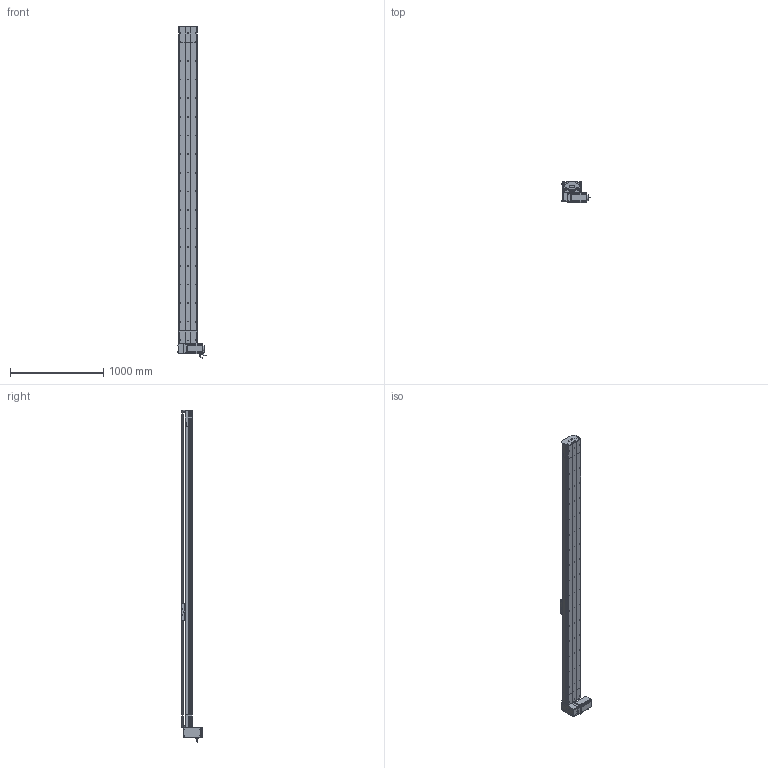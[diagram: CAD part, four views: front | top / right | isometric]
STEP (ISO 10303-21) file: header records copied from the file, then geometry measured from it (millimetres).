
FILE_DESCRIPTION (( 'STEP AP214' ), '1' );
FILE_NAME ('D20 TBH RU S3100.STEP', '2010-07-01T08:46:49', ( 'Conseil Régional Haute-Normandie' ), ( 'Conseil Régional Haute-Normandie' ), 'SwSTEP 2.0', 'SolidWorks 2010', '' );
FILE_SCHEMA (( 'AUTOMOTIVE_DESIGN' ));
Length unit declared in the file: millimetre
Products named in the file (40): corpl tail D20 +100_Default; chariot D20B_Default; Chariot D20B; guide D20B; plaque de  bout tail D20_Default; tail D20+100_Default; vis M8 L12_Default; clavette; Conecteur_Default; Conecteur2_Default; codeur 110BLDC170A-630x; vis M5 L70_Default; Plaque racord D20LH_Default; poulie tail D20_Default; Renvoi RU D20_Default; corps 110BLDC170A-630x; avant 110BLDC170A-630x; Moteur motionking 110BLDC170A-640x; vis M5 L5_Default; couroie_Default; corpl head D20_Default; cache arbre D20_Default; cache D20_Default; head RU_Default; rail head D20; plaque de  bout head D20B RU_Default; poulie head D20_Default; couvercle head D20_Default; rail tail D20; tete d''axe poulie D20B; couvercle tail D20_Default; Couroie tail D20_Default; vis M5 L12_Default; vis M5 L8 90°_Default; vis M5 L25_Default; Course B L3100_Default; D20 TBH RU S3100; rail + couroie  D20 S3100; couvercle D20 S3100_Default; corp D20 S3100_Default
Assembly tree (71 placements, depth 4):
  D20 TBH RU S3100
    chariot D20B_Default
      vis M5 L12_Default  x4
      guide D20B  x2
      Chariot D20B
    tail D20+100_Default
      vis M5 L8 90°_Default  x2
      tete d''axe poulie D20B
      couvercle tail D20_Default
      plaque de  bout tail D20_Default
      rail tail D20
      vis M5 L25_Default  x2
      corpl tail D20 +100_Default
      Couroie tail D20_Default
      poulie tail D20_Default
      vis M5 L12_Default  x4
    head RU_Default
      vis M8 L12_Default  x4
      vis M5 L12_Default  x10
      couroie_Default
      cache D20_Default  x2
      plaque de  bout head D20B RU_Default
      vis M5 L25_Default  x2
      vis M5 L5_Default  x4
      couvercle head D20_Default
      vis M5 L70_Default  x4
      Moteur motionking 110BLDC170A-640x
        avant 110BLDC170A-630x
        Conecteur2_Default
        clavette
        Conecteur_Default
        corps 110BLDC170A-630x
        codeur 110BLDC170A-630x
      Renvoi RU D20_Default
      rail head D20
      poulie head D20_Default
      Plaque racord D20LH_Default
      cache arbre D20_Default
      corpl head D20_Default
    Course B L3100_Default
      corp D20 S3100_Default
      couvercle D20 S3100_Default
      rail + couroie  D20 S3100
Bounding box: 304.2 x 223.2 x 3565 mm (x, y, z)
Volume: 27762644.9 mm3; surface area: 6860424.9 mm2
Topology: 95 solids, 95 shells, 2884 faces, 7440 edges, 4811 vertices
Faces by surface type: plane 1651, cylinder 909, bspline 136, cone 99, torus 89
Entity records: 93849 total; most frequent: CARTESIAN_POINT 30587, ORIENTED_EDGE 11536, DIRECTION 10813, EDGE_CURVE 5768, VERTEX_POINT 3797, VECTOR 3639, LINE 3639, AXIS2_PLACEMENT_3D 3587
